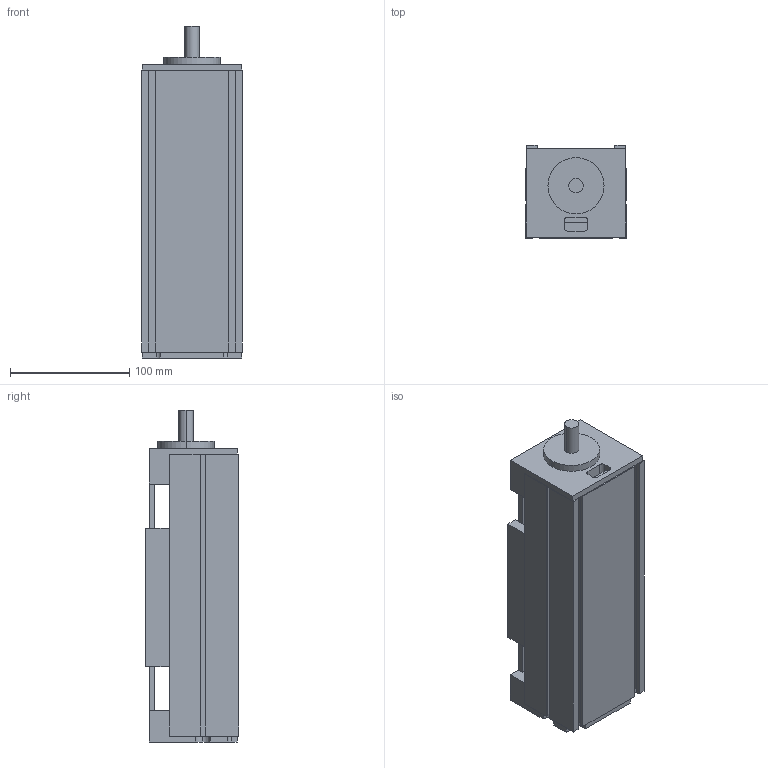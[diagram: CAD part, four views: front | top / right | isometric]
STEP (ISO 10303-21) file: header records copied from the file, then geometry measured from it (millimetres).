
FILE_DESCRIPTION (( 'STEP AP203' ), '1' );
FILE_NAME ('MSX84C-100-LL2005-P7标准面板.STEP', '2013-11-02T03:12:47', ( '微软用户' ), ( '微软中国' ), 'SwSTEP 2.0', 'SolidWorks 2010', '' );
FILE_SCHEMA (( 'CONFIG_CONTROL_DESIGN' ));
Length unit declared in the file: millimetre
Products named in the file (1): MSX84C-100-LL2005-P7梓袧醱啣
Bounding box: 84 x 78 x 278 mm (x, y, z)
Volume: 982339 mm3; surface area: 227608 mm2
Topology: 3 solids, 3 shells, 176 faces, 489 edges, 306 vertices
Faces by surface type: plane 128, cylinder 32, cone 16
Entity records: 5506 total; most frequent: CARTESIAN_POINT 956, ORIENTED_EDGE 946, DIRECTION 891, EDGE_CURVE 473, VECTOR 409, LINE 409, VERTEX_POINT 306, AXIS2_PLACEMENT_3D 241
